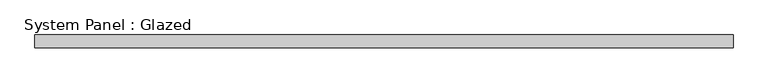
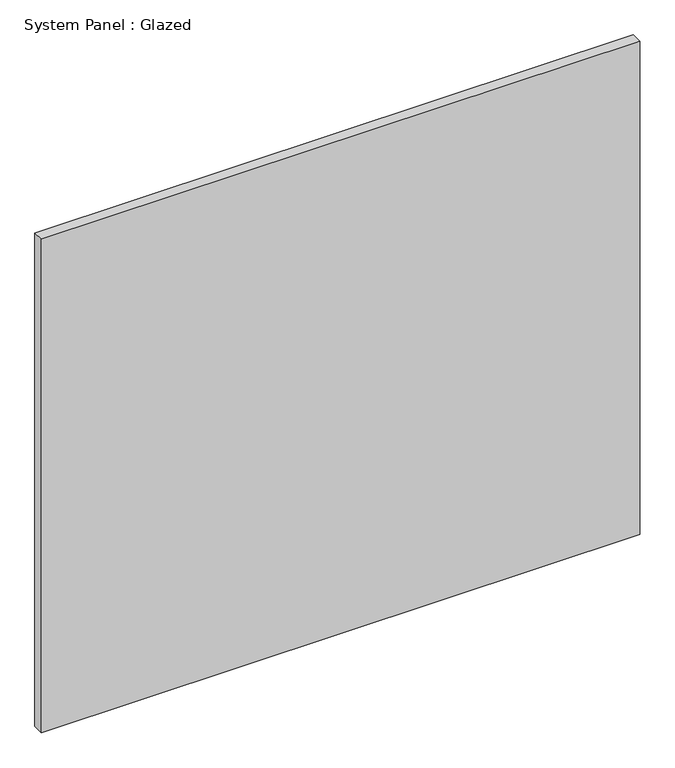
"""IFC4 building model written with IfcOpenShell, lengths in millimetres: plate geometry, System Panel : Glazed."""

from ifc_helpers import new_model, si_unit, origin, origin_with_axes, place, context, project, spatial, polyline, outline, extrude, source, transform, mapped, element, save


def system_panel_glazed_d327379d(model_context):
    return source(origin(), model_context, "Body", "SweptSolid", [
        extrude(outline(polyline([(687.9893952, 24.5), (-687.9893952, 24.5), (-687.9893952, 49.5), (687.9893952, 49.5), (687.9893952, 24.5)])), origin_with_axes(), (0.0, 0.0, 1.0), 1200.0),
    ])


if __name__ == "__main__":
    model = new_model("IFC4")
    model_context = context("Model", 3, world=origin())
    ifc_project = project(units=[si_unit("LENGTHUNIT", "METRE", prefix="MILLI")], contexts=[model_context])
    site = spatial("IfcSite", under=ifc_project)
    building = spatial("IfcBuilding", under=site)
    placement = place(None, origin())
    system_panel_glazed_shape = system_panel_glazed_d327379d(model_context)
    element("IfcPlate", 1, ObjectType="System Panel : Glazed", at=placement, inside=building, context=model_context, shape_type="MappedRepresentation", body=[
        mapped(system_panel_glazed_shape, transform((0.0, 0.0, 0.0), x_axis=(1.0, 0.0, 0.0), y_axis=(0.0, 1.0, 0.0), z_axis=(0.0, 0.0, 1.0))),
    ])
    save(model, "model.ifc")
